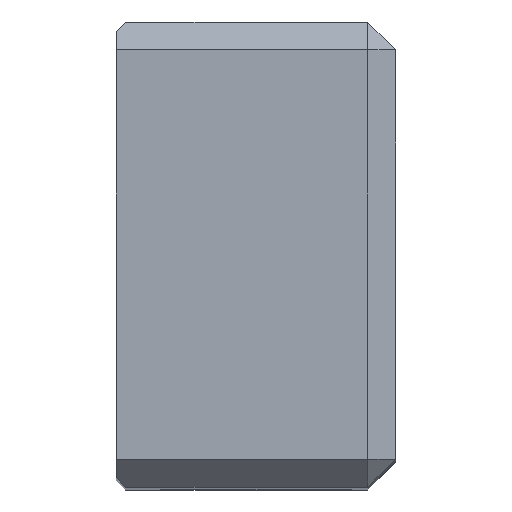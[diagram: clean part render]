
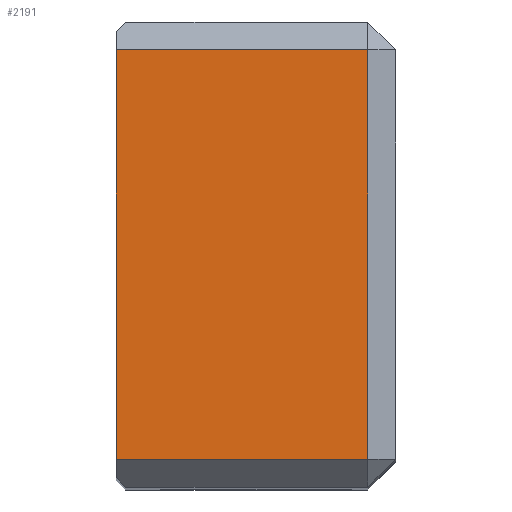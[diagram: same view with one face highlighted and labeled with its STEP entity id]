
A CAD part, top view. The second image highlights one B-rep face of the part: STEP entity #2191.
In plain terms, the highlighted planar face has unit normal (0, 0, 1).
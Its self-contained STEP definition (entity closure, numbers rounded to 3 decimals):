
#255=VERTEX_POINT(' ',#256);
#256=CARTESIAN_POINT('',(-3.,-22.,0.));
#257=VERTEX_POINT(' ',#258);
#258=CARTESIAN_POINT('',(-3.,22.,0.));
#259=VERTEX_POINT(' ',#260);
#260=CARTESIAN_POINT('',(-30.,22.,0.));
#261=VERTEX_POINT(' ',#262);
#262=CARTESIAN_POINT('',(-30.,-22.,0.));
#1046=LINE('',#1047,#1048);
#1047=CARTESIAN_POINT('',(-3.,38.971,0.));
#1048=VECTOR('',#1049,1.);
#1049=DIRECTION('',(0.,-1.,0.));
#1050=EDGE_CURVE(' ',#257,#255,#1046,.T.);
#1051=LINE('',#1052,#1053);
#1052=CARTESIAN_POINT('',(-46.971,22.,0.));
#1053=VECTOR('',#1054,1.);
#1054=DIRECTION('',(1.,0.,0.));
#1055=EDGE_CURVE(' ',#259,#257,#1051,.T.);
#1056=LINE('',#1057,#1058);
#1057=CARTESIAN_POINT('',(-30.,25.12,0.));
#1058=VECTOR('',#1059,1.);
#1059=DIRECTION('',(0.,-1.,0.));
#1060=EDGE_CURVE(' ',#259,#261,#1056,.T.);
#1061=LINE('',#1062,#1063);
#1062=CARTESIAN_POINT('',(13.971,-22.,0.));
#1063=VECTOR('',#1064,1.);
#1064=DIRECTION('',(-1.,0.,0.));
#1065=EDGE_CURVE(' ',#255,#261,#1061,.T.);
#2180=ORIENTED_EDGE('',*,*,#1050,.F.);
#2181=ORIENTED_EDGE('',*,*,#1055,.F.);
#2182=ORIENTED_EDGE('',*,*,#1060,.T.);
#2183=ORIENTED_EDGE('',*,*,#1065,.F.);
#2184=EDGE_LOOP('',(#2180,#2181,#2182,#2183));
#2185=FACE_OUTER_BOUND('',#2184,.T.);
#2186=PLANE('',#2187);
#2187=AXIS2_PLACEMENT_3D('',#2188,#2189,#2190);
#2188=CARTESIAN_POINT('',(0.,25.,0.));
#2189=DIRECTION('',(0.,0.,1.));
#2190=DIRECTION('',(0.,-1.,0.));
#2191=ADVANCED_FACE('',(#2185),#2186,.T.);
